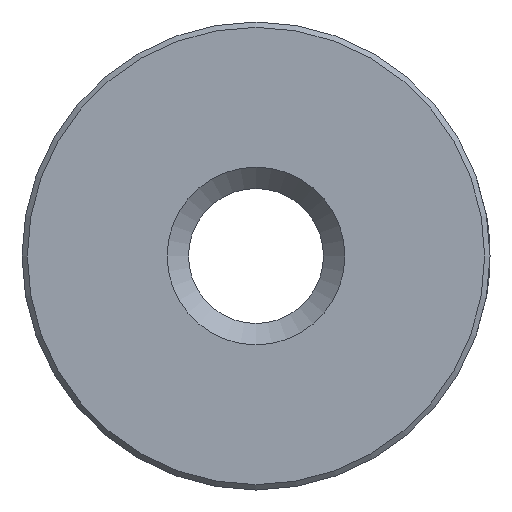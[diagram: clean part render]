
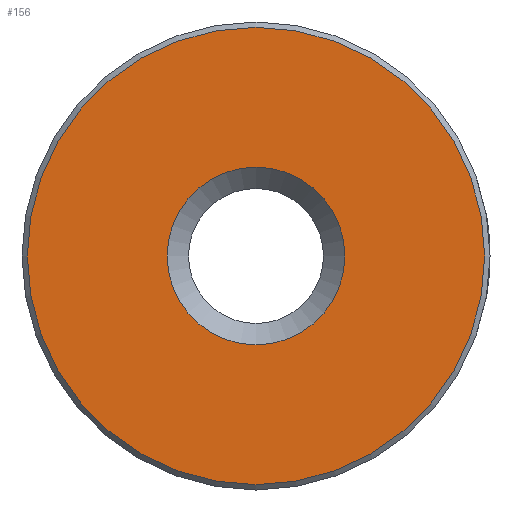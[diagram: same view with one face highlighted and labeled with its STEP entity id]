
A CAD part, front view. The second image highlights one B-rep face of the part: STEP entity #156.
In plain terms, the highlighted planar face has unit normal (0, -1, 0).
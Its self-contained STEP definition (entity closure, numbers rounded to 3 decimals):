
#6 = EDGE_CURVE ( 'NONE', #266, #266, #317, .T. ) ;
#56 = ORIENTED_EDGE ( 'NONE', *, *, #344, .T. ) ;
#82 = DIRECTION ( 'NONE',  ( 0., -1., 0. ) ) ;
#94 = DIRECTION ( 'NONE',  ( 0., 1., 0. ) ) ;
#97 = AXIS2_PLACEMENT_3D ( 'NONE', #501, #422, #186 ) ;
#112 = CARTESIAN_POINT ( 'NONE',  ( 0., 0., -15.175 ) ) ;
#154 = CARTESIAN_POINT ( 'NONE',  ( 0., 0., -11. ) ) ;
#156 = ADVANCED_FACE ( 'NONE', ( #194, #430 ), #348, .T. ) ;
#186 = DIRECTION ( 'NONE',  ( 0., 0., -1. ) ) ;
#194 = FACE_OUTER_BOUND ( 'NONE', #375, .T. ) ;
#220 = EDGE_LOOP ( 'NONE', ( #56 ) ) ;
#237 = DIRECTION ( 'NONE',  ( 0., 0., -1. ) ) ;
#266 = VERTEX_POINT ( 'NONE', #463 ) ;
#275 = AXIS2_PLACEMENT_3D ( 'NONE', #154, #82, #237 ) ;
#293 = CARTESIAN_POINT ( 'NONE',  ( 0., 0., -11. ) ) ;
#295 = ORIENTED_EDGE ( 'NONE', *, *, #6, .T. ) ;
#317 = CIRCLE ( 'NONE', #97, 10.75 ) ;
#344 = EDGE_CURVE ( 'NONE', #465, #465, #441, .T. ) ;
#348 = PLANE ( 'NONE',  #275 ) ;
#373 = DIRECTION ( 'NONE',  ( 0., 0., -1. ) ) ;
#375 = EDGE_LOOP ( 'NONE', ( #295 ) ) ;
#422 = DIRECTION ( 'NONE',  ( 0., -1., 0. ) ) ;
#430 = FACE_BOUND ( 'NONE', #220, .T. ) ;
#435 = AXIS2_PLACEMENT_3D ( 'NONE', #293, #94, #373 ) ;
#441 = CIRCLE ( 'NONE', #435, 4.175 ) ;
#463 = CARTESIAN_POINT ( 'NONE',  ( 0., 0., -21.75 ) ) ;
#465 = VERTEX_POINT ( 'NONE', #112 ) ;
#501 = CARTESIAN_POINT ( 'NONE',  ( 0., 0., -11. ) ) ;
